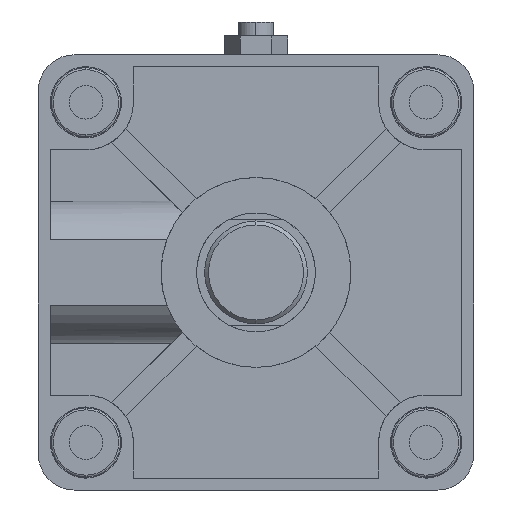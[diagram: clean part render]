
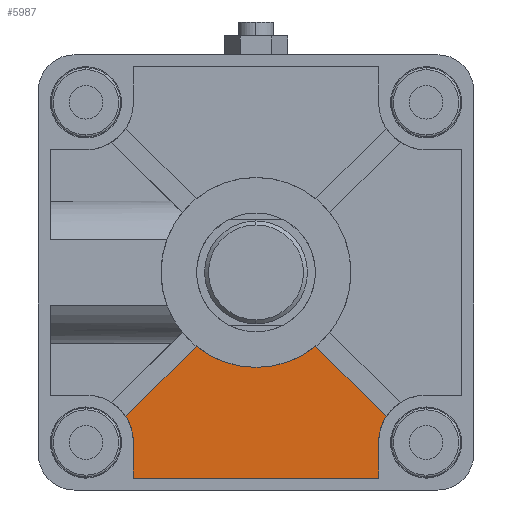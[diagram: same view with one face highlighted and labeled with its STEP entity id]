
A CAD part, left-side view. The second image highlights one B-rep face of the part: STEP entity #5987.
In plain terms, the highlighted planar face has unit normal (-1, 0, 0) as drawn and (1, 0, 0) by its records, which use the part's own axes.
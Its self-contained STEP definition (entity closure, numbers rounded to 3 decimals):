
#133 = DIRECTION ( 'NONE',  ( 0., 0., -1. ) ) ;
#200 = CARTESIAN_POINT ( 'NONE',  ( -3., 0., 24. ) ) ;
#227 = ORIENTED_EDGE ( 'NONE', *, *, #5359, .F. ) ;
#277 = DIRECTION ( 'NONE',  ( 1., 0., 0. ) ) ;
#371 = VERTEX_POINT ( 'NONE', #200 ) ;
#625 = LINE ( 'NONE', #5438, #7038 ) ;
#667 = CARTESIAN_POINT ( 'NONE',  ( -3., -31., 43. ) ) ;
#683 = ORIENTED_EDGE ( 'NONE', *, *, #2306, .F. ) ;
#829 = CARTESIAN_POINT ( 'NONE',  ( -3., -32.933, 36.469 ) ) ;
#830 = AXIS2_PLACEMENT_3D ( 'NONE', #7274, #1984, #3859 ) ;
#968 = VERTEX_POINT ( 'NONE', #4000 ) ;
#1316 = EDGE_CURVE ( 'NONE', #1645, #2253, #5149, .T. ) ;
#1645 = VERTEX_POINT ( 'NONE', #3640 ) ;
#1681 = VERTEX_POINT ( 'NONE', #8532 ) ;
#1727 = DIRECTION ( 'NONE',  ( 0., 0., 1. ) ) ;
#1802 = CARTESIAN_POINT ( 'NONE',  ( -3., 0., 52. ) ) ;
#1984 = DIRECTION ( 'NONE',  ( -1., 0., 0. ) ) ;
#2106 = AXIS2_PLACEMENT_3D ( 'NONE', #5617, #6641, #8883 ) ;
#2116 = VERTEX_POINT ( 'NONE', #8726 ) ;
#2127 = VERTEX_POINT ( 'NONE', #6186 ) ;
#2169 = EDGE_CURVE ( 'NONE', #2127, #371, #6200, .T. ) ;
#2178 = DIRECTION ( 'NONE',  ( 0., 0., -1. ) ) ;
#2253 = VERTEX_POINT ( 'NONE', #4509 ) ;
#2306 = EDGE_CURVE ( 'NONE', #8186, #4473, #9121, .T. ) ;
#2513 = ORIENTED_EDGE ( 'NONE', *, *, #2169, .T. ) ;
#2747 = DIRECTION ( 'NONE',  ( 0., 0., -1. ) ) ;
#2764 = PLANE ( 'NONE',  #4387 ) ;
#2917 = VECTOR ( 'NONE', #1727, 1000. ) ;
#3000 = CIRCLE ( 'NONE', #6217, 24. ) ;
#3115 = ORIENTED_EDGE ( 'NONE', *, *, #7158, .T. ) ;
#3123 = EDGE_LOOP ( 'NONE', ( #8908, #2513, #5174, #5666, #3115, #7685, #8605, #227, #683 ) ) ;
#3240 = DIRECTION ( 'NONE',  ( 0., -1., 0. ) ) ;
#3301 = LINE ( 'NONE', #5649, #7310 ) ;
#3473 = LINE ( 'NONE', #6844, #2917 ) ;
#3640 = CARTESIAN_POINT ( 'NONE',  ( -3., 31., 52. ) ) ;
#3780 = DIRECTION ( 'NONE',  ( 0., 0., 1. ) ) ;
#3859 = DIRECTION ( 'NONE',  ( 0., 0., -1. ) ) ;
#3924 = VECTOR ( 'NONE', #3240, 1000. ) ;
#4000 = CARTESIAN_POINT ( 'NONE',  ( -3., 31., 43. ) ) ;
#4387 = AXIS2_PLACEMENT_3D ( 'NONE', #6888, #5550, #2178 ) ;
#4473 = VERTEX_POINT ( 'NONE', #667 ) ;
#4509 = CARTESIAN_POINT ( 'NONE',  ( -3., -31., 52. ) ) ;
#5149 = LINE ( 'NONE', #1802, #3924 ) ;
#5174 = ORIENTED_EDGE ( 'NONE', *, *, #8913, .T. ) ;
#5217 = DIRECTION ( 'NONE',  ( 0., -0.707, -0.707 ) ) ;
#5359 = EDGE_CURVE ( 'NONE', #4473, #2253, #7036, .T. ) ;
#5396 = AXIS2_PLACEMENT_3D ( 'NONE', #8522, #277, #133 ) ;
#5423 = VECTOR ( 'NONE', #3780, 1000. ) ;
#5438 = CARTESIAN_POINT ( 'NONE',  ( -3., 1.768, 1.768 ) ) ;
#5550 = DIRECTION ( 'NONE',  ( 1., 0., 0. ) ) ;
#5617 = CARTESIAN_POINT ( 'NONE',  ( -3., 0., 0. ) ) ;
#5649 = CARTESIAN_POINT ( 'NONE',  ( -3., -1.768, 1.768 ) ) ;
#5666 = ORIENTED_EDGE ( 'NONE', *, *, #7175, .F. ) ;
#5987 = ADVANCED_FACE ( 'NONE', ( #6131 ), #2764, .T. ) ;
#6131 = FACE_OUTER_BOUND ( 'NONE', #3123, .T. ) ;
#6186 = CARTESIAN_POINT ( 'NONE',  ( -3., -15.11, 18.646 ) ) ;
#6200 = CIRCLE ( 'NONE', #2106, 24. ) ;
#6217 = AXIS2_PLACEMENT_3D ( 'NONE', #6715, #6564, #2747 ) ;
#6564 = DIRECTION ( 'NONE',  ( -1., 0., 0. ) ) ;
#6641 = DIRECTION ( 'NONE',  ( -1., 0., 0. ) ) ;
#6715 = CARTESIAN_POINT ( 'NONE',  ( -3., 0., 0. ) ) ;
#6844 = CARTESIAN_POINT ( 'NONE',  ( -3., 31., 0. ) ) ;
#6888 = CARTESIAN_POINT ( 'NONE',  ( -3., 0., 0. ) ) ;
#7036 = LINE ( 'NONE', #8227, #5423 ) ;
#7038 = VECTOR ( 'NONE', #7800, 1000. ) ;
#7158 = EDGE_CURVE ( 'NONE', #2116, #968, #7604, .T. ) ;
#7175 = EDGE_CURVE ( 'NONE', #2116, #1681, #3301, .T. ) ;
#7224 = EDGE_CURVE ( 'NONE', #968, #1645, #3473, .T. ) ;
#7274 = CARTESIAN_POINT ( 'NONE',  ( -3., 43., 43. ) ) ;
#7310 = VECTOR ( 'NONE', #5217, 1000. ) ;
#7347 = EDGE_CURVE ( 'NONE', #2127, #8186, #625, .T. ) ;
#7604 = CIRCLE ( 'NONE', #830, 12. ) ;
#7685 = ORIENTED_EDGE ( 'NONE', *, *, #7224, .T. ) ;
#7800 = DIRECTION ( 'NONE',  ( 0., -0.707, 0.707 ) ) ;
#8186 = VERTEX_POINT ( 'NONE', #829 ) ;
#8227 = CARTESIAN_POINT ( 'NONE',  ( -3., -31., 0. ) ) ;
#8522 = CARTESIAN_POINT ( 'NONE',  ( -3., -43., 43. ) ) ;
#8532 = CARTESIAN_POINT ( 'NONE',  ( -3., 15.11, 18.646 ) ) ;
#8605 = ORIENTED_EDGE ( 'NONE', *, *, #1316, .T. ) ;
#8726 = CARTESIAN_POINT ( 'NONE',  ( -3., 32.933, 36.469 ) ) ;
#8883 = DIRECTION ( 'NONE',  ( 0., 0., -1. ) ) ;
#8908 = ORIENTED_EDGE ( 'NONE', *, *, #7347, .F. ) ;
#8913 = EDGE_CURVE ( 'NONE', #371, #1681, #3000, .T. ) ;
#9121 = CIRCLE ( 'NONE', #5396, 12. ) ;
